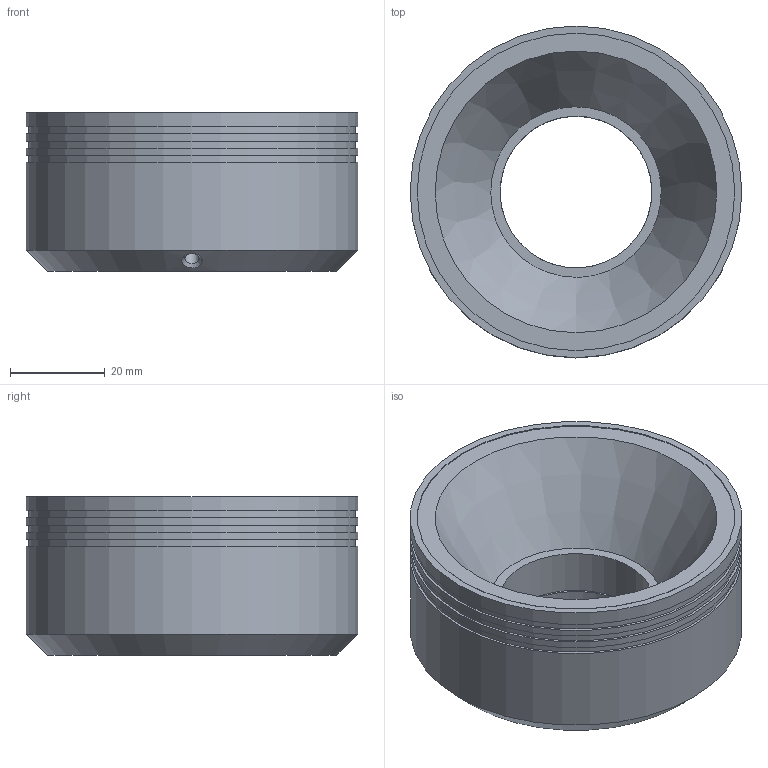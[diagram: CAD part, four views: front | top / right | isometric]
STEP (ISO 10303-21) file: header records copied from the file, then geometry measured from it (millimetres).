
FILE_DESCRIPTION((''),'2;1');
FILE_NAME('D:\上海创波-20181114\2-三维图纸\1-常用光源\WLFR系列\WLFR2-60LA70-.stp','2020-02-05T09:14:01',('Administrator'),(''),'Autodesk Inventor 2010','Autodesk Inventor 2010','');
FILE_SCHEMA(('AUTOMOTIVE_DESIGN { 1 0 10303 214 1 1 1 1 }'));
Length unit declared in the file: millimetre
Products named in the file (1): 零件8
Bounding box: 70 x 70 x 33.5 mm (x, y, z)
Volume: 71986.7 mm3; surface area: 23136.1 mm2
Topology: 1 solids, 2 shells, 43 faces, 74 edges, 51 vertices
Faces by surface type: plane 20, cylinder 20, cone 2, bspline 1
Full cylindrical faces by diameter (mm): 3 x5, 32 x2, 34 x2, 35 x1, 37 x1, 67 x2, 69 x3, 70 x4
Entity records: 1031 total; most frequent: CARTESIAN_POINT 199, DIRECTION 170, ORIENTED_EDGE 90, EDGE_LOOP 87, AXIS2_PLACEMENT_3D 85, EDGE_CURVE 45, VERTEX_POINT 44, FACE_BOUND 44
